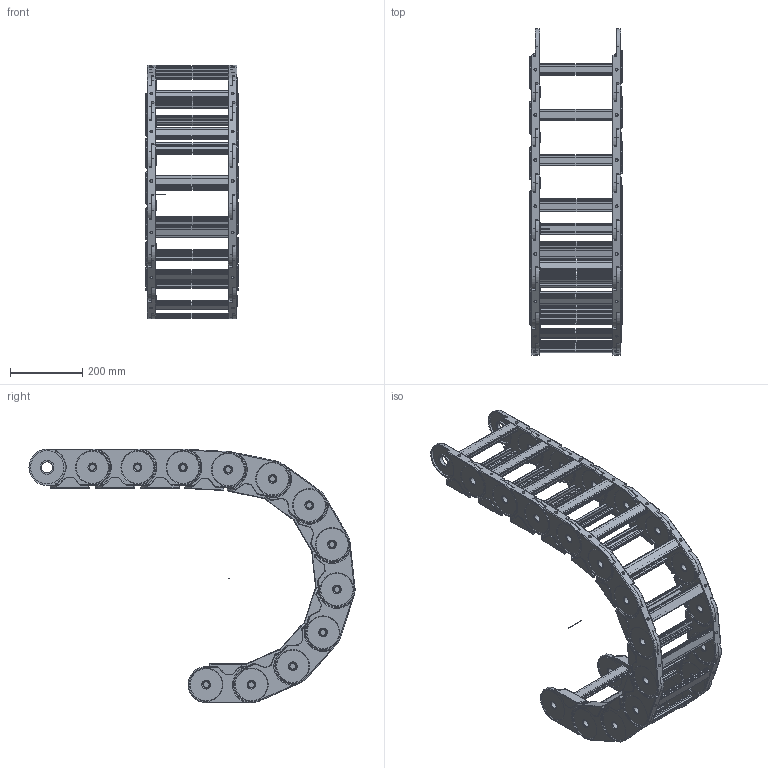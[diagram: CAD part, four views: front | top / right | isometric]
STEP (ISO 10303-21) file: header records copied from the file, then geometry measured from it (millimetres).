
FILE_DESCRIPTION((''),'2;1');
FILE_NAME('C:\Uebbing\TRACE PARTS\PLE\PLE 528\PLE 528 vereinfacht.stp','2013-06-04T09:42:56',('Uebbing'),(''),'Autodesk Inventor 10','Autodesk Inventor 10','');
FILE_SCHEMA(('AUTOMOTIVE_DESIGN { 1 0 10303 214 1 1 1 1 }'));
Length unit declared in the file: millimetre
Products named in the file (5): PLE 528 vereinfacht; PLE 528 Glied vereinfacht; PLE 520 Glied vereinfacht; PLE 528 Gleiter vereinfacht; Achse
Assembly tree (16 placements, depth 3):
  PLE 528 vereinfacht
    PLE 528 Glied vereinfacht  x12
      PLE 520 Glied vereinfacht
      PLE 528 Gleiter vereinfacht
    Achse
Bounding box: 254 x 900.18 x 700 mm (x, y, z)
Volume: 6534044.5 mm3; surface area: 2318086.6 mm2
Topology: 37 solids, 37 shells, 3291 faces, 7852 edges, 4851 vertices
Faces by surface type: plane 1298, cylinder 1249, bspline 360, torus 336, cone 48
Full cylindrical faces by diameter (mm): 1 x1, 8 x24, 20 x24, 30 x24, 30.1 x24, 38 x48, 92 x48
Entity records: 9156 total; most frequent: CARTESIAN_POINT 3894, DIRECTION 1132, ORIENTED_EDGE 988, EDGE_CURVE 494, AXIS2_PLACEMENT_3D 438, VERTEX_POINT 326, EDGE_LOOP 274, VECTOR 256
